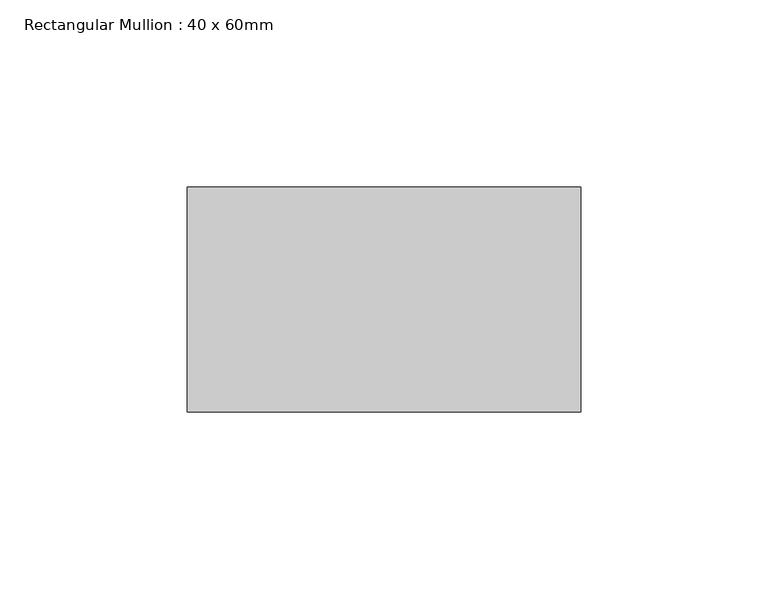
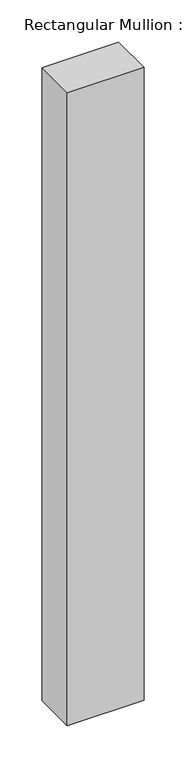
"""IFC4 building model written with IfcOpenShell, lengths in millimetres: member geometry, Rectangular Mullion : 40 x 60mm."""

from ifc_helpers import new_model, si_unit, frame, origin, place, context, project, spatial, polyline, outline, extrude, source, transform, mapped, element, save


def rectangular_mullion_40_x_60mm_5c1f08a1(model_context):
    return source(origin(), model_context, "Body", "SweptSolid", [
        extrude(outline(polyline([(0.0, -10.0), (0.0, -70.0), (-105.0, -70.0), (-105.0, -10.0), (0.0, -10.0)])), frame((0.0, 0.0, -916.8948458), z_axis=(0.0, 0.0, 1.0), x_axis=(1.0, 0.0, 0.0)), (0.0, 0.0, 1.0), 916.8948458),
    ])


if __name__ == "__main__":
    model = new_model("IFC4")
    model_context = context("Model", 3, world=origin())
    ifc_project = project(units=[si_unit("LENGTHUNIT", "METRE", prefix="MILLI")], contexts=[model_context])
    site = spatial("IfcSite", under=ifc_project)
    building = spatial("IfcBuilding", under=site)
    placement = place(None, origin())
    rectangular_mullion_40_x_60mm_shape = rectangular_mullion_40_x_60mm_5c1f08a1(model_context)
    element("IfcMember", 1, ObjectType="Rectangular Mullion : 40 x 60mm", at=placement, inside=building, context=model_context, shape_type="MappedRepresentation", body=[
        mapped(rectangular_mullion_40_x_60mm_shape, transform((0.0, 0.0, 0.0), x_axis=(1.0, 0.0, 0.0), y_axis=(0.0, 1.0, 0.0), z_axis=(0.0, 0.0, 1.0))),
    ])
    save(model, "model.ifc")
